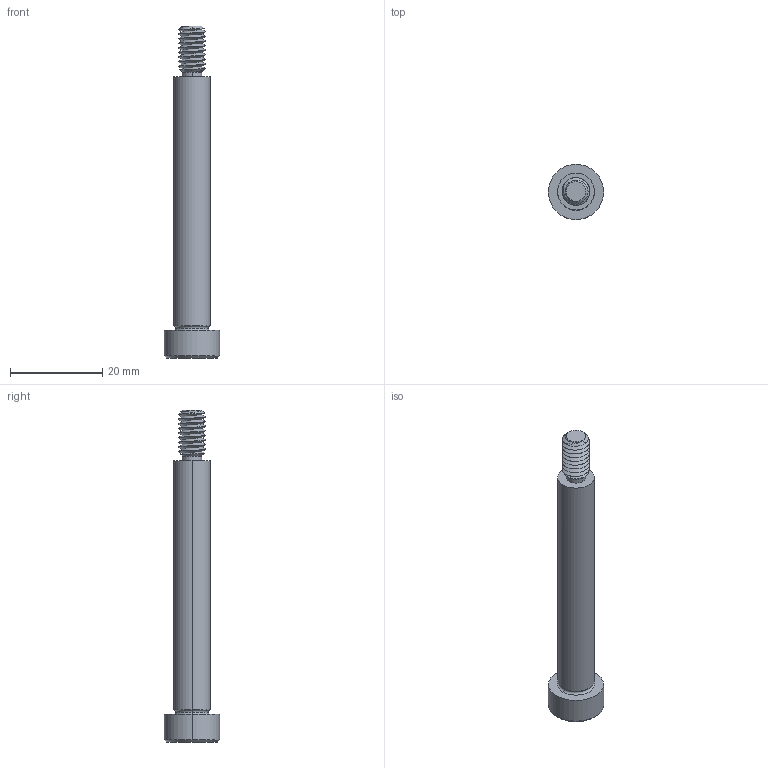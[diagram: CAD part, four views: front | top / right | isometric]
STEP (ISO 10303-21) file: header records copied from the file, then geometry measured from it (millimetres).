
FILE_DESCRIPTION (( 'STEP AP203' ), '1' );
FILE_NAME ('P0130.080-055-B2.step', '2021-11-09T21:42:33', ( '' ), ( '' ), 'SwSTEP 2.0', 'SolidWorks 2019', '' );
FILE_SCHEMA (( 'CONFIG_CONTROL_DESIGN' ));
Length unit declared in the file: millimetre
Products named in the file (1): P0130.080-055-B2
Bounding box: 12 x 12 x 72 mm (x, y, z)
Volume: 3595.8 mm3; surface area: 2215.1 mm2
Topology: 1 solids, 1 shells, 60 faces, 142 edges, 85 vertices
Faces by surface type: cylinder 24, plane 16, cone 14, torus 4, bspline 2
Entity records: 4245 total; most frequent: CARTESIAN_POINT 2899, ORIENTED_EDGE 280, DIRECTION 247, EDGE_CURVE 140, AXIS2_PLACEMENT_3D 99, VERTEX_POINT 85, EDGE_LOOP 63, FACE_OUTER_BOUND 60
